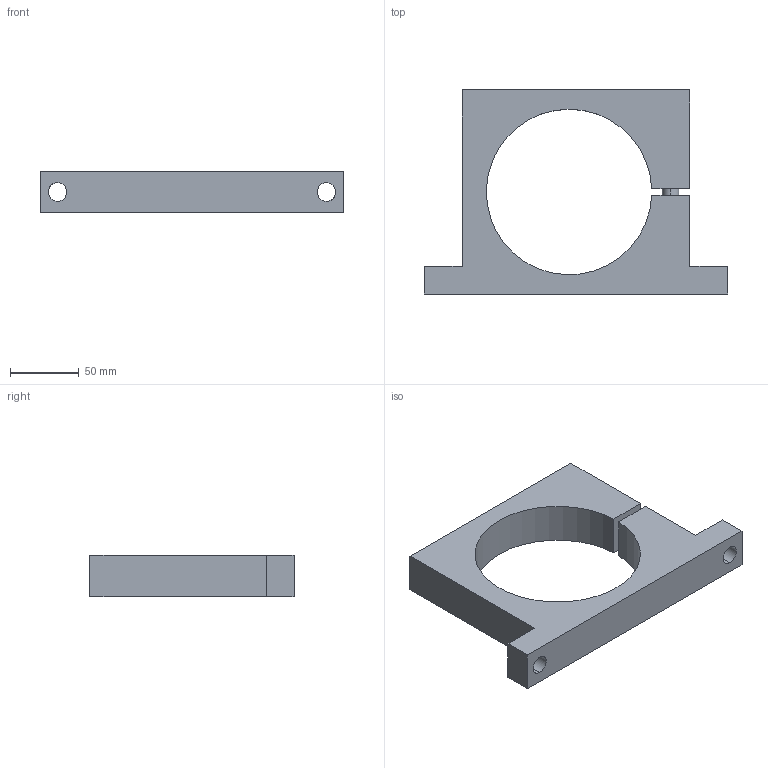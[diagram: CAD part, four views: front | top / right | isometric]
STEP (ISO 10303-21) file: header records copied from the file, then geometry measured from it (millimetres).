
FILE_DESCRIPTION(('CATIA V5 STEP Exchange'),'2;1');
FILE_NAME('W:\CATALOGO GENERAL 2018\FICHEROS CAD\023-BRIDAS\06-FI\FI 120.stp','2017-11-28T11:58:58+00:00',('none'),('none'),'CATIA Version 5 Release 17 (IN-10)','CATIA V5 STEP AP203','none');
FILE_SCHEMA(('CONFIG_CONTROL_DESIGN'));
Length unit declared in the file: millimetre
Products named in the file (1): FI 120
Bounding box: 220 x 148 x 30 mm (x, y, z)
Volume: 415989.9 mm3; surface area: 65469.8 mm2
Topology: 1 solids, 1 shells, 27 faces, 69 edges, 46 vertices
Faces by surface type: plane 15, cylinder 12
Entity records: 1193 total; most frequent: CARTESIAN_POINT 511, ORIENTED_EDGE 138, DIRECTION 107, EDGE_CURVE 69, VERTEX_POINT 46, VECTOR 45, LINE 45, AXIS2_PLACEMENT_3D 36
